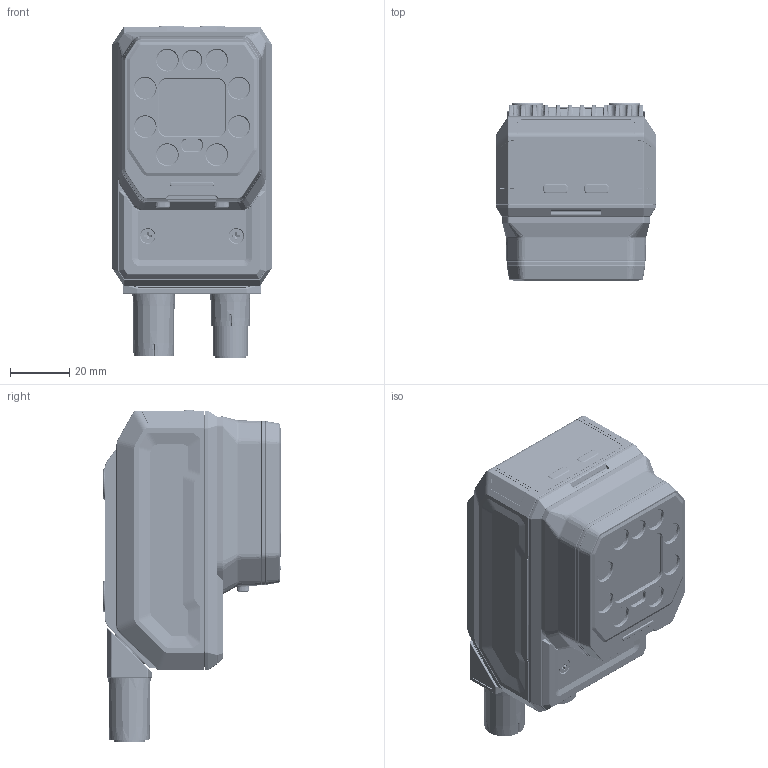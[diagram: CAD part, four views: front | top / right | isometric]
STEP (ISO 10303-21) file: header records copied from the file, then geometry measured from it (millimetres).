
FILE_DESCRIPTION((''),'2;1');
FILE_NAME('00-ID5050XM-ASSY_ASM_1_ASM','2024-05-13T23:15:09',('huguozhe'),(''),'CREO PARAMETRIC BY PTC INC, 2020044','CREO PARAMETRIC BY PTC INC, 2020044','');
FILE_SCHEMA(('AUTOMOTIVE_DESIGN { 1 0 10303 214 1 1 1 1 }'));
Products named in the file (35): DE-13-001803_1; DE-13-001802_ASM_1_ASM; DE-13-001805_1; DE-13-001804_ASM_1_ASM; DE-19-009236_1; DE-19-009208_1; DE-19-009208_ASM_1_ASM; DE-20-023513_ASM_1_ASM; DE-12-004312_1; DE-12-004313_1; DE-13-001769_1; DE-13-001818_ASM_1_ASM; DE-13-001770_1; DE-13-001771_ASM_1_ASM; DE-20-023137_ASM_1_ASM; L102-M12-ZJ12A01-ALL_1; CNT12-M12-LT08A02_ALL_1; SC-KM2X4NL-BNI-SCM435-GB819_1; SC-T1M2X4NL-B_1; DE-20-023136_ASM_1_ASM; DE-13-001795_1; DE-13-001794_ASM_1_ASM; DE-17-002901_1; DE-17-002902_1; DE-13-001797_1; DE-13-001796_ASM_1_ASM; DE-18-000217_1; DE-19-009228_1; DE-18-000217_ASM_1_ASM; DE-12-004304_1; SC-PM2_5X6-NI-GB823_1; DE-20-023504_ASM_1_ASM; DE-12-004314_1; SC-KM2_5X6B-JMF_1; 00-ID5050XM-ASSY_ASM_1_ASM
Assembly tree (45 placements, depth 5):
  00-ID5050XM-ASSY_ASM_1_ASM
    DE-13-001802_ASM_1_ASM
      DE-13-001803_1
    DE-13-001804_ASM_1_ASM
      DE-13-001805_1
    DE-19-009236_1  x2
    DE-20-023513_ASM_1_ASM
      DE-19-009208_ASM_1_ASM
        DE-19-009208_1
    DE-12-004312_1
    DE-12-004313_1
    DE-20-023136_ASM_1_ASM
      DE-13-001818_ASM_1_ASM
        DE-13-001769_1
      DE-20-023137_ASM_1_ASM
        DE-13-001771_ASM_1_ASM
          DE-13-001770_1
      L102-M12-ZJ12A01-ALL_1
      CNT12-M12-LT08A02_ALL_1
      SC-KM2X4NL-BNI-SCM435-GB819_1  x2
      SC-T1M2X4NL-B_1  x2
    DE-20-023504_ASM_1_ASM
      DE-13-001794_ASM_1_ASM
        DE-13-001795_1
      DE-17-002901_1
      DE-17-002902_1
      DE-13-001796_ASM_1_ASM
        DE-13-001797_1
      DE-18-000217_ASM_1_ASM
        DE-18-000217_1
        DE-19-009228_1
      DE-12-004304_1
      SC-PM2_5X6-NI-GB823_1  x4
    DE-12-004314_1
    SC-PM2_5X6-NI-GB823_1  x4
    SC-KM2_5X6B-JMF_1  x2
Bounding box: 54.3 x 60.15 x 112.44 mm (x, y, z)
Volume: 164361.5 mm3; surface area: 92804.2 mm2
Topology: 33 solids, 138 shells, 6077 faces, 15589 edges, 9703 vertices
Faces by surface type: cylinder 1936, plane 1782, cone 985, torus 774, bspline 513, sphere 46, revolution 22, extrusion 19
Entity records: 244039 total; most frequent: CARTESIAN_POINT 85907, DIRECTION 28578, ORIENTED_EDGE 28220, EDGE_CURVE 14228, AXIS2_PLACEMENT_3D 11407, VERTEX_POINT 8939, CIRCLE 6245, EDGE_LOOP 5975
